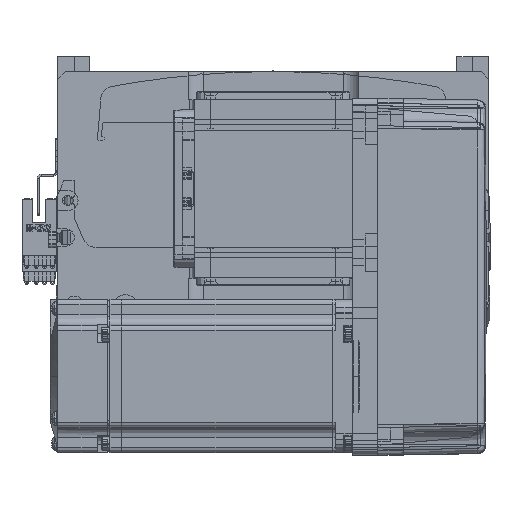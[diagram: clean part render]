
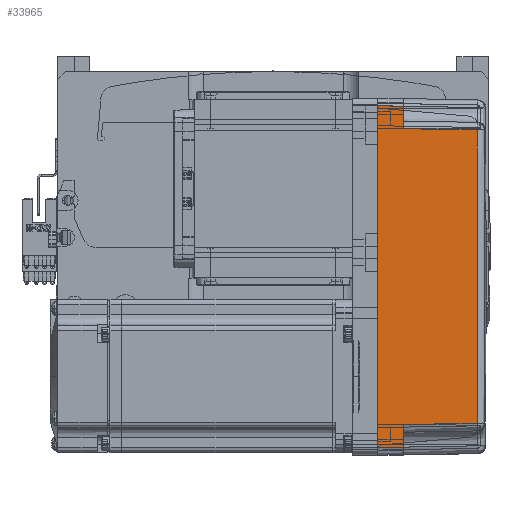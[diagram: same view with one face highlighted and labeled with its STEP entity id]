
A CAD part, top view. The second image highlights one B-rep face of the part: STEP entity #33965.
In plain terms, the highlighted planar face has unit normal (0.018, 0, 1) as drawn and (0, 1, 0.017) by its records, which use the part's own axes.
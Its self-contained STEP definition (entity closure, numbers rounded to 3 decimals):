
#85 = ORIENTED_EDGE ( 'NONE', *, *, #24594, .F. ) ;
#463 = LINE ( 'NONE', #38142, #4896 ) ;
#946 = CARTESIAN_POINT ( 'NONE',  ( -57.495, 35.32, 38.985 ) ) ;
#2490 = ORIENTED_EDGE ( 'NONE', *, *, #39559, .T. ) ;
#3359 = DIRECTION ( 'NONE',  ( 0.017, -0.017, 1. ) ) ;
#4896 = VECTOR ( 'NONE', #66172, 1000. ) ;
#6254 = CARTESIAN_POINT ( 'NONE',  ( -19.165, 35.316, 39.181 ) ) ;
#6911 = EDGE_LOOP ( 'NONE', ( #33939, #14117, #41295, #2490, #59981, #34668, #48350, #85 ) ) ;
#8435 = CARTESIAN_POINT ( 'NONE',  ( -67., 36., 0. ) ) ;
#9083 = CARTESIAN_POINT ( 'NONE',  ( -58., 35.825, 10. ) ) ;
#9544 = VECTOR ( 'NONE', #72318, 1000. ) ;
#9837 = VERTEX_POINT ( 'NONE', #66359 ) ;
#10336 = VERTEX_POINT ( 'NONE', #35957 ) ;
#11180 = VERTEX_POINT ( 'NONE', #73850 ) ;
#13223 = CARTESIAN_POINT ( 'NONE',  ( 66.826, 35.825, 10. ) ) ;
#13641 = CARTESIAN_POINT ( 'NONE',  ( 19.165, 35.316, 39.181 ) ) ;
#14117 = ORIENTED_EDGE ( 'NONE', *, *, #31934, .T. ) ;
#14364 = FACE_OUTER_BOUND ( 'NONE', #6911, .T. ) ;
#14393 = EDGE_CURVE ( 'NONE', #10336, #44764, #45972, .T. ) ;
#15044 = EDGE_CURVE ( 'NONE', #37996, #52276, #18155, .T. ) ;
#15927 = CARTESIAN_POINT ( 'NONE',  ( 0., 36., 0. ) ) ;
#16862 = EDGE_CURVE ( 'NONE', #11180, #32294, #71915, .T. ) ;
#18155 = LINE ( 'NONE', #68378, #71807 ) ;
#18923 = AXIS2_PLACEMENT_3D ( 'NONE', #43918, #26174, #71954 ) ;
#23094 = DIRECTION ( 'NONE',  ( 0.017, -0.017, 1. ) ) ;
#23566 = VECTOR ( 'NONE', #53672, 1000. ) ;
#24594 = EDGE_CURVE ( 'NONE', #62574, #37996, #52803, .T. ) ;
#26174 = DIRECTION ( 'NONE',  ( 0., 1., 0.017 ) ) ;
#28898 = VECTOR ( 'NONE', #3359, 1000. ) ;
#30666 = CARTESIAN_POINT ( 'NONE',  ( 57.495, 35.32, 38.985 ) ) ;
#31934 = EDGE_CURVE ( 'NONE', #9837, #11180, #463, .T. ) ;
#32294 = VERTEX_POINT ( 'NONE', #946 ) ;
#33698 = B_SPLINE_CURVE_WITH_KNOTS ( 'NONE', 3,
 ( #40441, #6254, #13641, #30666 ),
 .UNSPECIFIED., .F., .F.,
 ( 4, 4 ),
 ( 0., 1. ),
 .UNSPECIFIED. ) ;
#33939 = ORIENTED_EDGE ( 'NONE', *, *, #63701, .T. ) ;
#33965 = ADVANCED_FACE ( 'NONE', ( #14364 ), #60422, .T. ) ;
#34668 = ORIENTED_EDGE ( 'NONE', *, *, #59420, .T. ) ;
#34865 = DIRECTION ( 'NONE',  ( -0.017, -0.017, 1. ) ) ;
#35957 = CARTESIAN_POINT ( 'NONE',  ( 57.495, 35.32, 38.985 ) ) ;
#37996 = VERTEX_POINT ( 'NONE', #40298 ) ;
#38142 = CARTESIAN_POINT ( 'NONE',  ( 70., 35.825, 10. ) ) ;
#39150 = DIRECTION ( 'NONE',  ( 1., 0., 0. ) ) ;
#39559 = EDGE_CURVE ( 'NONE', #32294, #10336, #33698, .T. ) ;
#40298 = CARTESIAN_POINT ( 'NONE',  ( 67., 36., 0. ) ) ;
#40441 = CARTESIAN_POINT ( 'NONE',  ( -57.495, 35.32, 38.985 ) ) ;
#41295 = ORIENTED_EDGE ( 'NONE', *, *, #16862, .T. ) ;
#43918 = CARTESIAN_POINT ( 'NONE',  ( 70., 36., 0. ) ) ;
#44764 = VERTEX_POINT ( 'NONE', #62349 ) ;
#45972 = LINE ( 'NONE', #70676, #23566 ) ;
#47275 = VECTOR ( 'NONE', #23094, 1000. ) ;
#48350 = ORIENTED_EDGE ( 'NONE', *, *, #15044, .F. ) ;
#49542 = CARTESIAN_POINT ( 'NONE',  ( 70., 35.825, 10. ) ) ;
#52276 = VERTEX_POINT ( 'NONE', #13223 ) ;
#52803 = LINE ( 'NONE', #15927, #70650 ) ;
#53672 = DIRECTION ( 'NONE',  ( 0.017, 0.017, -1. ) ) ;
#57340 = CARTESIAN_POINT ( 'NONE',  ( -67., 36., 0. ) ) ;
#59420 = EDGE_CURVE ( 'NONE', #44764, #52276, #59571, .T. ) ;
#59571 = LINE ( 'NONE', #49542, #9544 ) ;
#59981 = ORIENTED_EDGE ( 'NONE', *, *, #14393, .T. ) ;
#60422 = PLANE ( 'NONE',  #18923 ) ;
#61599 = LINE ( 'NONE', #57340, #47275 ) ;
#62349 = CARTESIAN_POINT ( 'NONE',  ( 58., 35.825, 10. ) ) ;
#62574 = VERTEX_POINT ( 'NONE', #8435 ) ;
#63701 = EDGE_CURVE ( 'NONE', #62574, #9837, #61599, .T. ) ;
#66172 = DIRECTION ( 'NONE',  ( 1., 0., 0. ) ) ;
#66359 = CARTESIAN_POINT ( 'NONE',  ( -66.826, 35.825, 10. ) ) ;
#68378 = CARTESIAN_POINT ( 'NONE',  ( 67.001, 36.001, -0.052 ) ) ;
#70650 = VECTOR ( 'NONE', #39150, 1000. ) ;
#70676 = CARTESIAN_POINT ( 'NONE',  ( 57.495, 35.32, 38.985 ) ) ;
#71807 = VECTOR ( 'NONE', #34865, 1000. ) ;
#71915 = LINE ( 'NONE', #9083, #28898 ) ;
#71954 = DIRECTION ( 'NONE',  ( 0., -0.017, 1. ) ) ;
#72318 = DIRECTION ( 'NONE',  ( 1., 0., 0. ) ) ;
#73850 = CARTESIAN_POINT ( 'NONE',  ( -58., 35.825, 10. ) ) ;
